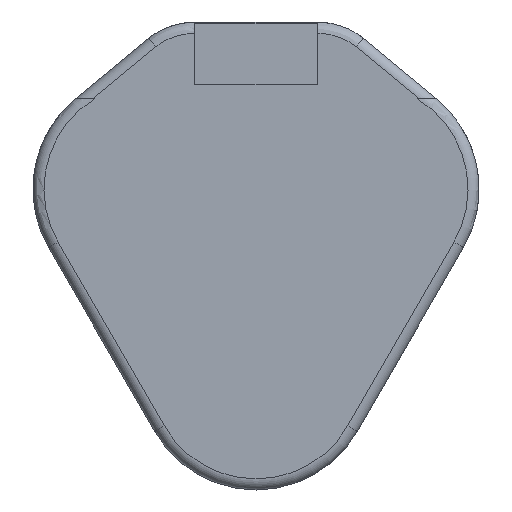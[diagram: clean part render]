
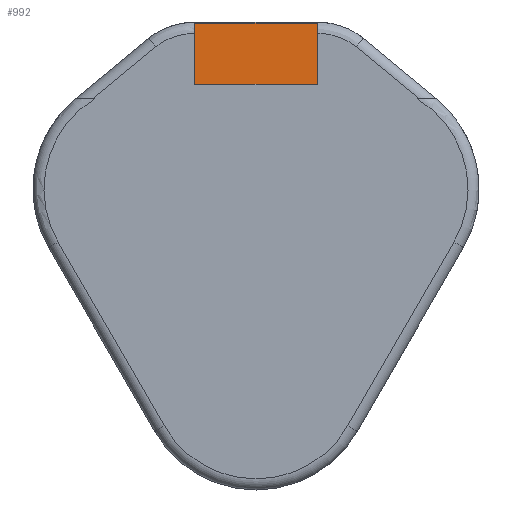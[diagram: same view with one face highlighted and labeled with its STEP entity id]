
A CAD part, front view. The second image highlights one B-rep face of the part: STEP entity #992.
In plain terms, the highlighted planar face has unit normal (0, -1, 0).
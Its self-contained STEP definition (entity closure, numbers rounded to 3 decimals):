
#33 = VERTEX_POINT ( 'NONE', #275 ) ;
#51 = VECTOR ( 'NONE', #1215, 1000. ) ;
#127 = VECTOR ( 'NONE', #1234, 1000. ) ;
#161 = AXIS2_PLACEMENT_3D ( 'NONE', #1715, #1396, #1129 ) ;
#215 = LINE ( 'NONE', #911, #2117 ) ;
#270 = CARTESIAN_POINT ( 'NONE',  ( -5.5, -190., 20.399 ) ) ;
#275 = CARTESIAN_POINT ( 'NONE',  ( 5.5, -190., 14.899 ) ) ;
#292 = ORIENTED_EDGE ( 'NONE', *, *, #1923, .T. ) ;
#388 = FACE_OUTER_BOUND ( 'NONE', #1994, .T. ) ;
#410 = VERTEX_POINT ( 'NONE', #270 ) ;
#486 = VERTEX_POINT ( 'NONE', #1345 ) ;
#757 = PLANE ( 'NONE',  #161 ) ;
#798 = LINE ( 'NONE', #1289, #1470 ) ;
#886 = DIRECTION ( 'NONE',  ( -1., 0., 0. ) ) ;
#910 = CARTESIAN_POINT ( 'NONE',  ( -5.5, -190., 14.899 ) ) ;
#911 = CARTESIAN_POINT ( 'NONE',  ( -5.5, -190., 20.399 ) ) ;
#941 = ORIENTED_EDGE ( 'NONE', *, *, #1845, .T. ) ;
#945 = DIRECTION ( 'NONE',  ( 0., 0., -1. ) ) ;
#992 = ADVANCED_FACE ( 'NONE', ( #388 ), #757, .F. ) ;
#1070 = EDGE_CURVE ( 'NONE', #2134, #33, #2096, .T. ) ;
#1129 = DIRECTION ( 'NONE',  ( 0., 0., 1. ) ) ;
#1209 = CARTESIAN_POINT ( 'NONE',  ( -5.5, -190., 14.899 ) ) ;
#1215 = DIRECTION ( 'NONE',  ( 0., 0., 1. ) ) ;
#1234 = DIRECTION ( 'NONE',  ( 1., 0., 0. ) ) ;
#1289 = CARTESIAN_POINT ( 'NONE',  ( -5.5, -190., 14.899 ) ) ;
#1345 = CARTESIAN_POINT ( 'NONE',  ( 5.5, -190., 20.399 ) ) ;
#1385 = LINE ( 'NONE', #2088, #51 ) ;
#1396 = DIRECTION ( 'NONE',  ( 0., 1., 0. ) ) ;
#1470 = VECTOR ( 'NONE', #945, 1000. ) ;
#1629 = ORIENTED_EDGE ( 'NONE', *, *, #2005, .T. ) ;
#1715 = CARTESIAN_POINT ( 'NONE',  ( -9.526, -190., 5.5 ) ) ;
#1813 = ORIENTED_EDGE ( 'NONE', *, *, #1070, .T. ) ;
#1845 = EDGE_CURVE ( 'NONE', #33, #486, #1385, .T. ) ;
#1923 = EDGE_CURVE ( 'NONE', #486, #410, #215, .T. ) ;
#1994 = EDGE_LOOP ( 'NONE', ( #941, #292, #1629, #1813 ) ) ;
#2005 = EDGE_CURVE ( 'NONE', #410, #2134, #798, .T. ) ;
#2088 = CARTESIAN_POINT ( 'NONE',  ( 5.5, -190., 14.899 ) ) ;
#2096 = LINE ( 'NONE', #910, #127 ) ;
#2117 = VECTOR ( 'NONE', #886, 1000. ) ;
#2134 = VERTEX_POINT ( 'NONE', #1209 ) ;
